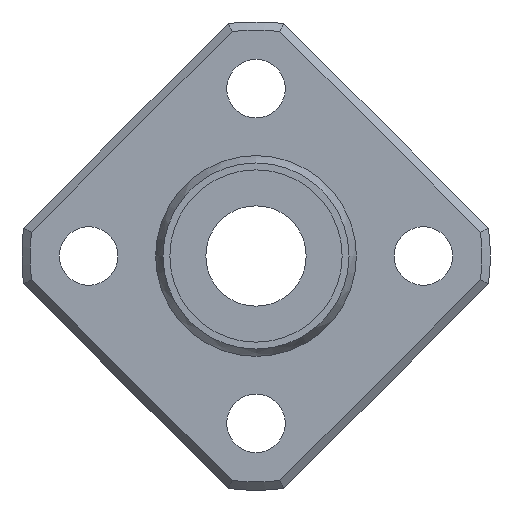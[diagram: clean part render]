
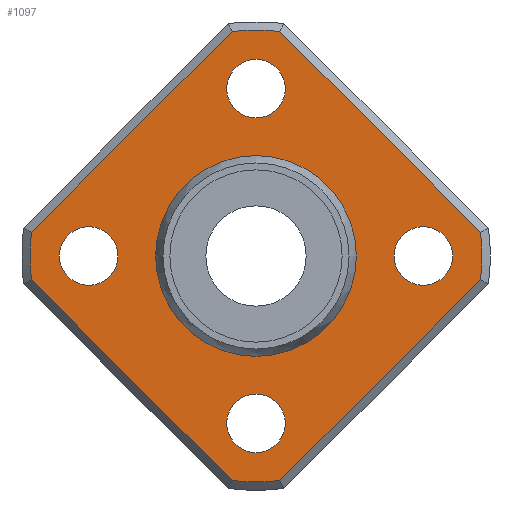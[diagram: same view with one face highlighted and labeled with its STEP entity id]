
A CAD part, left-side view. The second image highlights one B-rep face of the part: STEP entity #1097.
In plain terms, the highlighted planar face has unit normal (-1, 0, 0).
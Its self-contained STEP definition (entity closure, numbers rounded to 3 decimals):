
#673=CARTESIAN_POINT('',(-12.5,13.425,1.425));
#674=VERTEX_POINT('',#673);
#682=CARTESIAN_POINT('',(-12.5,1.425,13.425));
#683=VERTEX_POINT('',#682);
#684=CARTESIAN_POINT('',(-12.5,13.425,1.425));
#685=DIRECTION('',(0.0,-0.707,0.707));
#686=VECTOR('',#685,16.971);
#687=LINE('',#684,#686);
#688=EDGE_CURVE('',#674,#683,#687,.T.);
#715=CARTESIAN_POINT('',(-12.5,-1.425,13.425));
#716=VERTEX_POINT('',#715);
#717=CARTESIAN_POINT('',(-12.5,0.0,0.0));
#718=DIRECTION('',(1.0,0.0,0.0));
#719=DIRECTION('',(0.0,0.0,1.0));
#720=AXIS2_PLACEMENT_3D('',#717,#718,#719);
#721=CIRCLE('',#720,13.5);
#722=EDGE_CURVE('',#683,#716,#721,.T.);
#748=CARTESIAN_POINT('',(-12.5,-13.425,1.425));
#749=VERTEX_POINT('',#748);
#750=CARTESIAN_POINT('',(-12.5,-1.425,13.425));
#751=DIRECTION('',(0.0,-0.707,-0.707));
#752=VECTOR('',#751,16.971);
#753=LINE('',#750,#752);
#754=EDGE_CURVE('',#716,#749,#753,.T.);
#781=CARTESIAN_POINT('',(-12.5,-13.425,-1.425));
#782=VERTEX_POINT('',#781);
#783=CARTESIAN_POINT('',(-12.5,0.0,0.0));
#784=DIRECTION('',(1.0,0.0,0.0));
#785=DIRECTION('',(0.0,0.0,1.0));
#786=AXIS2_PLACEMENT_3D('',#783,#784,#785);
#787=CIRCLE('',#786,13.5);
#788=EDGE_CURVE('',#749,#782,#787,.T.);
#814=CARTESIAN_POINT('',(-12.5,-1.425,-13.425));
#815=VERTEX_POINT('',#814);
#816=CARTESIAN_POINT('',(-12.5,-13.425,-1.425));
#817=DIRECTION('',(0.0,0.707,-0.707));
#818=VECTOR('',#817,16.971);
#819=LINE('',#816,#818);
#820=EDGE_CURVE('',#782,#815,#819,.T.);
#847=CARTESIAN_POINT('',(-12.5,1.425,-13.425));
#848=VERTEX_POINT('',#847);
#849=CARTESIAN_POINT('',(-12.5,0.0,0.0));
#850=DIRECTION('',(1.0,0.0,0.0));
#851=DIRECTION('',(0.0,0.0,-1.0));
#852=AXIS2_PLACEMENT_3D('',#849,#850,#851);
#853=CIRCLE('',#852,13.5);
#854=EDGE_CURVE('',#815,#848,#853,.T.);
#880=CARTESIAN_POINT('',(-12.5,13.425,-1.425));
#881=VERTEX_POINT('',#880);
#882=CARTESIAN_POINT('',(-12.5,1.425,-13.425));
#883=DIRECTION('',(0.0,0.707,0.707));
#884=VECTOR('',#883,16.971);
#885=LINE('',#882,#884);
#886=EDGE_CURVE('',#848,#881,#885,.T.);
#911=CARTESIAN_POINT('',(-12.5,0.0,0.0));
#912=DIRECTION('',(1.0,0.0,0.0));
#913=DIRECTION('',(0.0,0.0,1.0));
#914=AXIS2_PLACEMENT_3D('',#911,#912,#913);
#915=CIRCLE('',#914,13.5);
#916=EDGE_CURVE('',#881,#674,#915,.T.);
#1027=CARTESIAN_POINT('',(-12.5,0.0,9.905));
#1028=DIRECTION('',(-1.0,0.0,0.0));
#1029=DIRECTION('',(0.0,0.0,1.0));
#1030=AXIS2_PLACEMENT_3D('',#1027,#1028,#1029);
#1031=PLANE('',#1030);
#1032=ORIENTED_EDGE('',*,*,#688,.F.);
#1033=ORIENTED_EDGE('',*,*,#916,.F.);
#1034=ORIENTED_EDGE('',*,*,#886,.F.);
#1035=ORIENTED_EDGE('',*,*,#854,.F.);
#1036=ORIENTED_EDGE('',*,*,#820,.F.);
#1037=ORIENTED_EDGE('',*,*,#788,.F.);
#1038=ORIENTED_EDGE('',*,*,#754,.F.);
#1039=ORIENTED_EDGE('',*,*,#722,.F.);
#1040=EDGE_LOOP('',(#1032,#1033,#1034,#1035,#1036,#1037,#1038,#1039));
#1041=FACE_OUTER_BOUND('',#1040,.T.);
#1042=CARTESIAN_POINT('',(-12.5,0.0,5.809));
#1043=VERTEX_POINT('',#1042);
#1044=CARTESIAN_POINT('',(-12.5,0.0,0.0));
#1045=DIRECTION('',(-1.0,0.0,0.0));
#1046=DIRECTION('',(0.0,0.0,1.0));
#1047=AXIS2_PLACEMENT_3D('',#1044,#1045,#1046);
#1048=CIRCLE('',#1047,5.809);
#1049=EDGE_CURVE('',#1043,#1043,#1048,.T.);
#1050=ORIENTED_EDGE('',*,*,#1049,.F.);
#1051=EDGE_LOOP('',(#1050));
#1052=FACE_BOUND('',#1051,.T.);
#1053=CARTESIAN_POINT('',(-12.5,8.25,0.));
#1054=VERTEX_POINT('',#1053);
#1055=CARTESIAN_POINT('',(-12.5,10.0,0.));
#1056=DIRECTION('',(1.0,0.0,0.0));
#1057=DIRECTION('',(0.0,1.0,0.0));
#1058=AXIS2_PLACEMENT_3D('',#1055,#1056,#1057);
#1059=CIRCLE('',#1058,1.75);
#1060=EDGE_CURVE('',#1054,#1054,#1059,.T.);
#1061=ORIENTED_EDGE('',*,*,#1060,.T.);
#1062=EDGE_LOOP('',(#1061));
#1063=FACE_BOUND('',#1062,.T.);
#1064=CARTESIAN_POINT('',(-12.5,-11.75,0.));
#1065=VERTEX_POINT('',#1064);
#1066=CARTESIAN_POINT('',(-12.5,-10.0,0.0));
#1067=DIRECTION('',(1.0,0.0,0.0));
#1068=DIRECTION('',(0.0,1.0,0.0));
#1069=AXIS2_PLACEMENT_3D('',#1066,#1067,#1068);
#1070=CIRCLE('',#1069,1.75);
#1071=EDGE_CURVE('',#1065,#1065,#1070,.T.);
#1072=ORIENTED_EDGE('',*,*,#1071,.T.);
#1073=EDGE_LOOP('',(#1072));
#1074=FACE_BOUND('',#1073,.T.);
#1075=CARTESIAN_POINT('',(-12.5,-1.75,10.0));
#1076=VERTEX_POINT('',#1075);
#1077=CARTESIAN_POINT('',(-12.5,0.,10.0));
#1078=DIRECTION('',(1.0,0.0,0.0));
#1079=DIRECTION('',(0.0,1.0,0.0));
#1080=AXIS2_PLACEMENT_3D('',#1077,#1078,#1079);
#1081=CIRCLE('',#1080,1.75);
#1082=EDGE_CURVE('',#1076,#1076,#1081,.T.);
#1083=ORIENTED_EDGE('',*,*,#1082,.T.);
#1084=EDGE_LOOP('',(#1083));
#1085=FACE_BOUND('',#1084,.T.);
#1086=CARTESIAN_POINT('',(-12.5,-1.75,-10.0));
#1087=VERTEX_POINT('',#1086);
#1088=CARTESIAN_POINT('',(-12.5,0.,-10.0));
#1089=DIRECTION('',(1.0,0.0,0.0));
#1090=DIRECTION('',(0.0,1.0,0.0));
#1091=AXIS2_PLACEMENT_3D('',#1088,#1089,#1090);
#1092=CIRCLE('',#1091,1.75);
#1093=EDGE_CURVE('',#1087,#1087,#1092,.T.);
#1094=ORIENTED_EDGE('',*,*,#1093,.T.);
#1095=EDGE_LOOP('',(#1094));
#1096=FACE_BOUND('',#1095,.T.);
#1097=ADVANCED_FACE('',(#1041,#1052,#1063,#1074,#1085,#1096),#1031,.T.);
